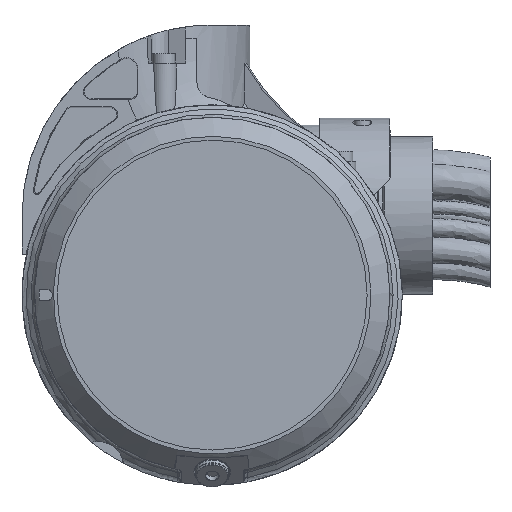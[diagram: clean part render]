
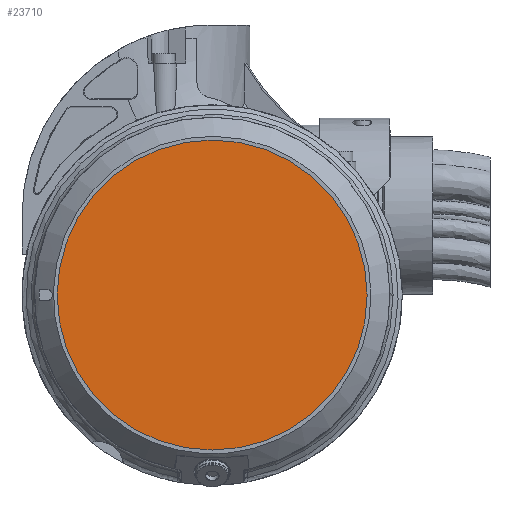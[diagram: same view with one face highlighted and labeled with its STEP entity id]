
A CAD part, left-side view. The second image highlights one B-rep face of the part: STEP entity #23710.
In plain terms, the highlighted planar face has unit normal (-1, 0, 0).
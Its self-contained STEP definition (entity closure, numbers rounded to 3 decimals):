
#1999 = AXIS2_PLACEMENT_3D ( 'NONE', #18238, #21265, #12127 ) ;
#2021 = EDGE_LOOP ( 'NONE', ( #6531 ) ) ;
#5045 = CARTESIAN_POINT ( 'NONE',  ( 2777.5, 18.5, 2010. ) ) ;
#5323 = AXIS2_PLACEMENT_3D ( 'NONE', #5045, #8061, #32799 ) ;
#6531 = ORIENTED_EDGE ( 'NONE', *, *, #7552, .T. ) ;
#7552 = EDGE_CURVE ( 'NONE', #18181, #18181, #15501, .T. ) ;
#8061 = DIRECTION ( 'NONE',  ( -1., 0., 0. ) ) ;
#12127 = DIRECTION ( 'NONE',  ( 0., -1., 0. ) ) ;
#15501 = CIRCLE ( 'NONE', #1999, 81.5 ) ;
#18181 = VERTEX_POINT ( 'NONE', #36422 ) ;
#18238 = CARTESIAN_POINT ( 'NONE',  ( 2777.5, 0., 2010. ) ) ;
#20398 = PLANE ( 'NONE',  #5323 ) ;
#21265 = DIRECTION ( 'NONE',  ( -1., 0., 0. ) ) ;
#23255 = FACE_OUTER_BOUND ( 'NONE', #2021, .T. ) ;
#23710 = ADVANCED_FACE ( 'NONE', ( #23255 ), #20398, .T. ) ;
#32799 = DIRECTION ( 'NONE',  ( 0., -1., 0. ) ) ;
#36422 = CARTESIAN_POINT ( 'NONE',  ( 2777.5, -81.5, 2010. ) ) ;
